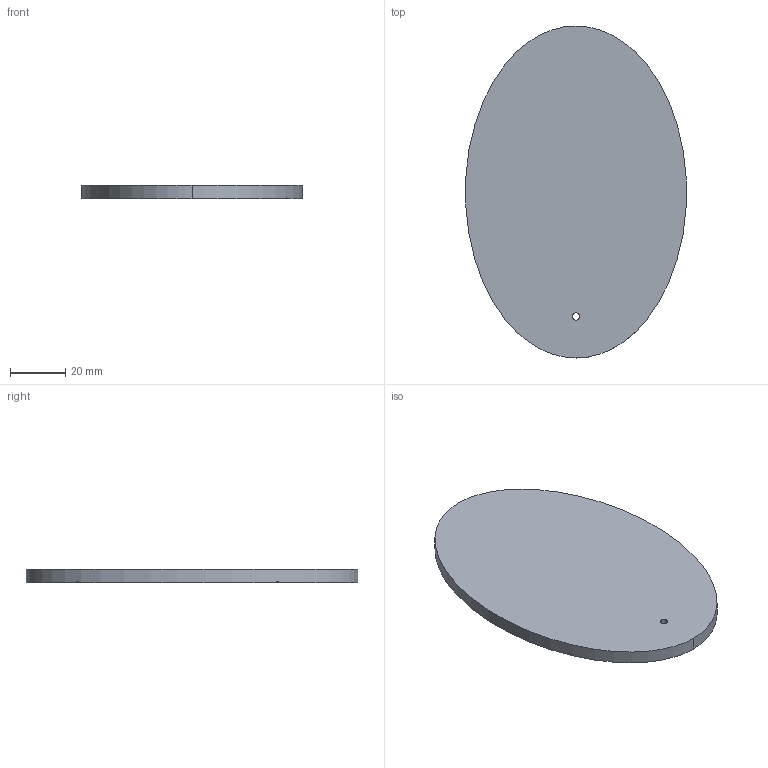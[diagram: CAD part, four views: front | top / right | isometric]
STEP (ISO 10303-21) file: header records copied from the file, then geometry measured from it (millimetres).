
FILE_DESCRIPTION (( 'STEP AP214' ), '1' );
FILE_NAME ('acrylic_window.STEP', '2021-05-07T20:17:02', ( '' ), ( '' ), 'SwSTEP 2.0', 'SolidWorks 2020', '' );
FILE_SCHEMA (( 'AUTOMOTIVE_DESIGN' ));
Length unit declared in the file: millimetre
Products named in the file (1): acrylic_window
Bounding box: 79.75 x 120 x 4.76 mm (x, y, z)
Volume: 35763.7 mm3; surface area: 16748.5 mm2
Topology: 1 solids, 1 shells, 30 faces, 60 edges, 40 vertices
Faces by surface type: cylinder 18, plane 10, bspline 2
Entity records: 844 total; most frequent: CARTESIAN_POINT 157, DIRECTION 150, ORIENTED_EDGE 120, AXIS2_PLACEMENT_3D 65, EDGE_CURVE 60, VERTEX_POINT 40, EDGE_LOOP 40, CIRCLE 36
